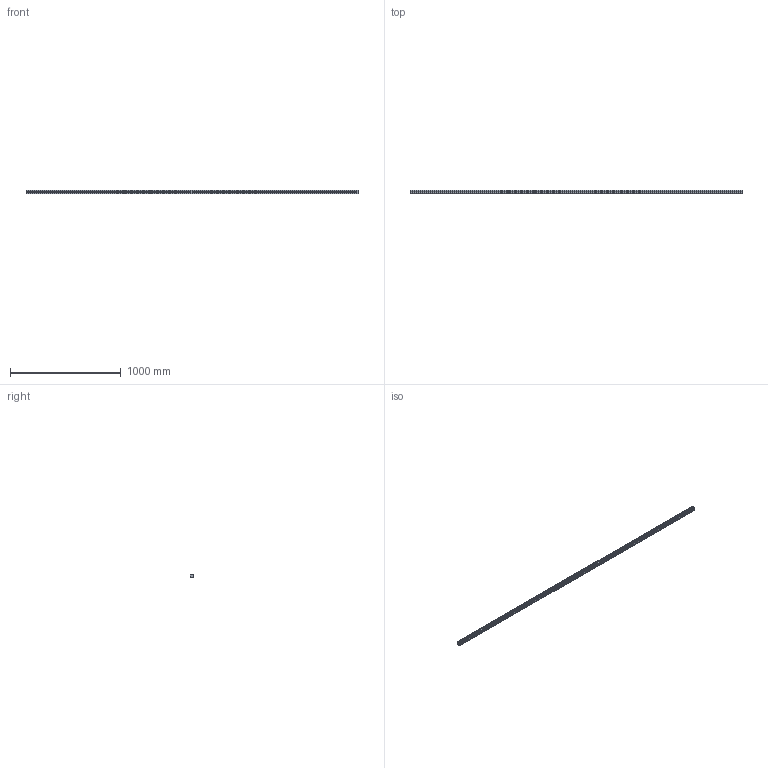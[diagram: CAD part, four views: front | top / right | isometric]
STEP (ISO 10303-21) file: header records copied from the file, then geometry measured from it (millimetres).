
FILE_DESCRIPTION(/* description */ ('STEP AP214'),/* implementation_level */ '2;1');
FILE_NAME(/* name */ 'SR35-3000L(GK) RAIL(20)',/* time_stamp */ '2023-06-01T09:48:40+02:00',/* author */ ('License CC BY-ND 4.0'),/* organization */ ('CADENAS'),/* preprocessor_version */ 'ST-DEVELOPER v19.3',/* originating_system */ 'PARTsolutions',/* authorisation */ ' ');
FILE_SCHEMA (('AUTOMOTIVE_DESIGN {1 0 10303 214 3 1 1}'));
Length unit declared in the file: millimetre
Products named in the file (1): SR35-3000L(GK) RAIL(20)
Bounding box: 3000 x 27.5 x 34 mm (x, y, z)
Volume: 2366880.3 mm3; surface area: 427956.8 mm2
Topology: 1 solids, 1 shells, 260 faces, 774 edges, 516 vertices
Faces by surface type: plane 178, cylinder 82
Full cylindrical faces by diameter (mm): 9 x38, 14 x38
Entity records: 8428 total; most frequent: DIRECTION 1612, CARTESIAN_POINT 1399, ORIENTED_EDGE 1320, AXIS2_PLACEMENT_3D 691, EDGE_CURVE 660, VERTEX_POINT 478, EDGE_LOOP 412, FACE_BOUND 412
